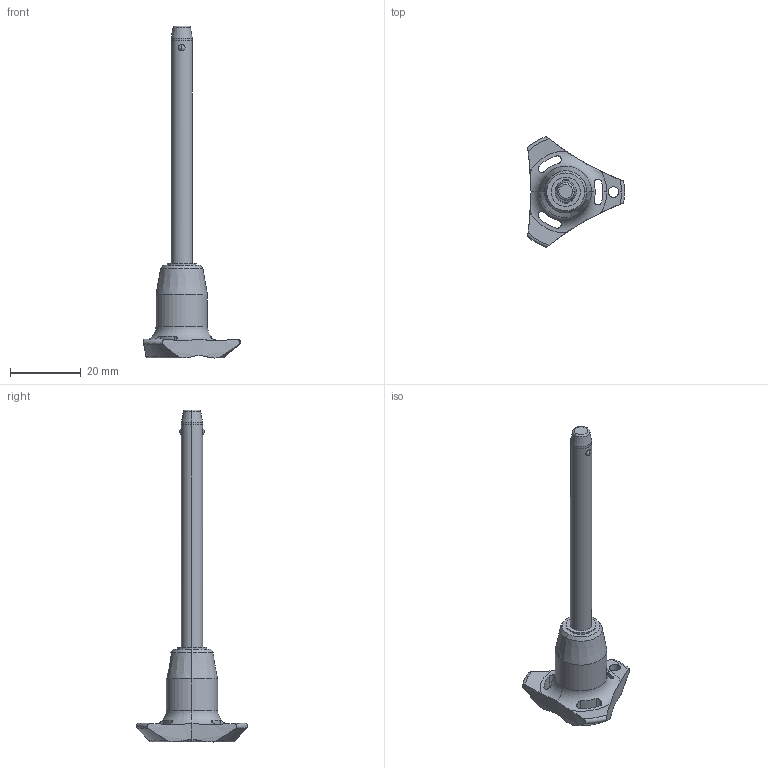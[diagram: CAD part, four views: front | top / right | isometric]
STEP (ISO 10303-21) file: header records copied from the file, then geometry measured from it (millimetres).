
FILE_DESCRIPTION (( 'STEP AP203' ), '1' );
FILE_NAME ('QR1736.M06-060-T.step', '2025-11-13T11:46:36', ( '' ), ( '' ), 'SwSTEP 2.0', 'SolidWorks 2019', '' );
FILE_SCHEMA (( 'CONFIG_CONTROL_DESIGN' ));
Length unit declared in the file: millimetre
Products named in the file (1): QR1736.M06-060-T
Bounding box: 27.4 x 31.31 x 93.7 mm (x, y, z)
Volume: 6662.4 mm3; surface area: 3683.9 mm2
Topology: 1 solids, 1 shells, 69 faces, 187 edges, 119 vertices
Faces by surface type: cylinder 32, cone 14, torus 12, sphere 6, plane 5
Entity records: 2789 total; most frequent: CARTESIAN_POINT 1010, ORIENTED_EDGE 374, DIRECTION 348, EDGE_CURVE 187, AXIS2_PLACEMENT_3D 155, VERTEX_POINT 119, CIRCLE 85, EDGE_LOOP 76
